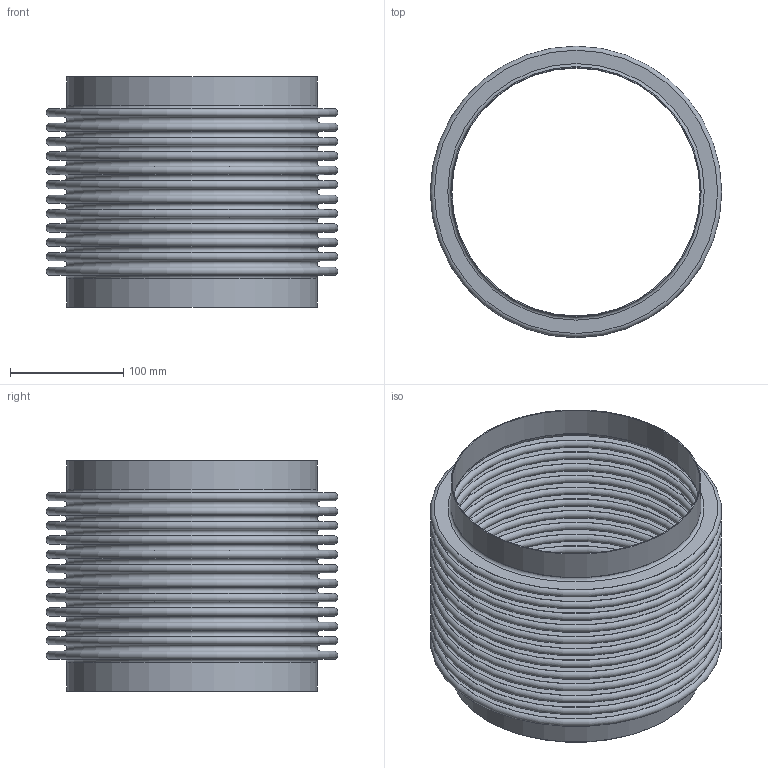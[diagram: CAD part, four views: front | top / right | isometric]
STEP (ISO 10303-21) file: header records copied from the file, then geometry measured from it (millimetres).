
FILE_DESCRIPTION(/* description */ ('STOCK BELLOWS: U.S-8-12-150L, 8.625 I.D., 10.125 O.D., 1 PLY, 20 GA (0.036 THICK), 12 CONS., 0.500 PITCH, 1.000 TANGENT. '),/* implementation_level */ '2;1');
FILE_NAME(/* name */ 'STOCK BELLOW - US-8-12-150L.stp',/* time_stamp */ '2026-07-21T13:02:52-05:00',/* author */ ('KennethB'),/* organization */ (''),/* preprocessor_version */ 'ST-DEVELOPER v20.1',/* originating_system */ 'Autodesk Inventor 2026',/* authorisation */ '');
FILE_SCHEMA (('AUTOMOTIVE_DESIGN { 1 0 10303 214 3 1 1 }'));
Length unit declared in the file: inch
Products named in the file (1): STOCK BELLOW - US-8-12-150L
Bounding box: 257.18 x 257.18 x 203.2 mm (x, y, z)
Volume: 389346.9 mm3; surface area: 855381.7 mm2
Topology: 3 solids, 3 shells, 108 faces, 162 edges, 109 vertices
Faces by surface type: plane 54, torus 50, cylinder 4
Full cylindrical faces by diameter (mm): 219.075 x2, 220.904 x2
Entity records: 2550 total; most frequent: DIRECTION 538, CARTESIAN_POINT 380, ORIENTED_EDGE 324, AXIS2_PLACEMENT_3D 267, EDGE_LOOP 162, EDGE_CURVE 162, CIRCLE 158, FACE_OUTER_BOUND 108
